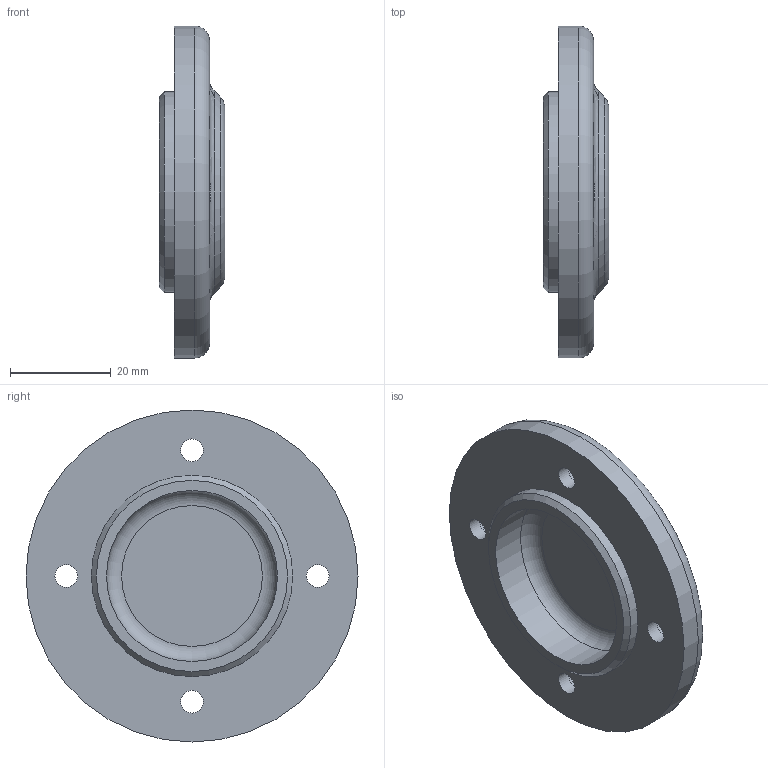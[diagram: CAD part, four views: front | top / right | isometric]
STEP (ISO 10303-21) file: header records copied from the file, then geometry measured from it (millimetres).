
FILE_DESCRIPTION(/* description */ (''),/* implementation_level */ '2;1');
FILE_NAME(/* name */ '',/* time_stamp */ '2025-03-10T16:43:13+09:00',/* author */ ('jhkim'),/* organization */ (''),/* preprocessor_version */ 'ST-DEVELOPER v20',/* originating_system */ 'Autodesk Inventor 2025',/* authorisation */ '');
FILE_SCHEMA (('AUTOMOTIVE_DESIGN { 1 0 10303 214 3 1 1 }'));
Length unit declared in the file: millimetre
Products named in the file (1): 뒷커버
Bounding box: 13 x 66 x 66 mm (x, y, z)
Volume: 20926.6 mm3; surface area: 9837.2 mm2
Topology: 1 solids, 1 shells, 26 faces, 63 edges, 42 vertices
Faces by surface type: cylinder 11, plane 9, torus 4, cone 2
Full cylindrical faces by diameter (mm): 4.5 x4, 8 x4, 34 x1, 40 x1, 66 x1
Entity records: 904 total; most frequent: CARTESIAN_POINT 195, DIRECTION 157, ORIENTED_EDGE 126, AXIS2_PLACEMENT_3D 72, EDGE_CURVE 63, CIRCLE 45, VERTEX_POINT 42, EDGE_LOOP 37
